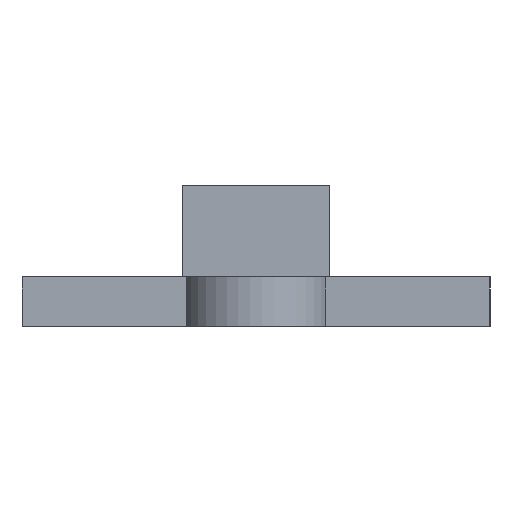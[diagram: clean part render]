
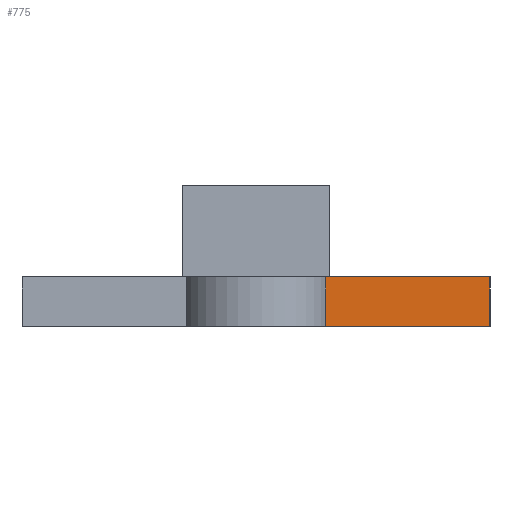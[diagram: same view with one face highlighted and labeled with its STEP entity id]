
A CAD part, left-side view. The second image highlights one B-rep face of the part: STEP entity #775.
In plain terms, the highlighted planar face has unit normal (-1, 0, 0).
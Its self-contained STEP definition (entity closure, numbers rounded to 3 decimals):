
#44 = PLANE('',#45);
#45 = AXIS2_PLACEMENT_3D('',#46,#47,#48);
#46 = CARTESIAN_POINT('',(2.,0.,
    0.));
#47 = DIRECTION('',(0.,0.,1.));
#48 = DIRECTION('',(1.,0.,-0.));
#178 = EDGE_CURVE('',#179,#181,#183,.T.);
#179 = VERTEX_POINT('',#180);
#180 = CARTESIAN_POINT('',(2.,0.,
    0.));
#181 = VERTEX_POINT('',#182);
#182 = CARTESIAN_POINT('',(2.,6.672,0.)
  );
#183 = SURFACE_CURVE('',#184,(#188,#195),.PCURVE_S1.);
#184 = LINE('',#185,#186);
#185 = CARTESIAN_POINT('',(2.,0.,
    0.));
#186 = VECTOR('',#187,1.);
#187 = DIRECTION('',(-0.,1.,0.));
#188 = PCURVE('',#44,#189);
#189 = DEFINITIONAL_REPRESENTATION('',(#190),#194);
#190 = LINE('',#191,#192);
#191 = CARTESIAN_POINT('',(0.,0.));
#192 = VECTOR('',#193,1.);
#193 = DIRECTION('',(0.,1.));
#194 = ( GEOMETRIC_REPRESENTATION_CONTEXT(2) 
PARAMETRIC_REPRESENTATION_CONTEXT() REPRESENTATION_CONTEXT('2D SPACE',''
  ) );
#195 = PCURVE('',#196,#201);
#196 = PLANE('',#197);
#197 = AXIS2_PLACEMENT_3D('',#198,#199,#200);
#198 = CARTESIAN_POINT('',(2.,0.,
    0.));
#199 = DIRECTION('',(1.,0.,-0.));
#200 = DIRECTION('',(0.,0.,1.));
#201 = DEFINITIONAL_REPRESENTATION('',(#202),#206);
#202 = LINE('',#203,#204);
#203 = CARTESIAN_POINT('',(0.,0.));
#204 = VECTOR('',#205,1.);
#205 = DIRECTION('',(0.,-1.));
#206 = ( GEOMETRIC_REPRESENTATION_CONTEXT(2) 
PARAMETRIC_REPRESENTATION_CONTEXT() REPRESENTATION_CONTEXT('2D SPACE',''
  ) );
#224 = PLANE('',#225);
#225 = AXIS2_PLACEMENT_3D('',#226,#227,#228);
#226 = CARTESIAN_POINT('',(2.,0.,
    0.));
#227 = DIRECTION('',(-0.,1.,0.));
#228 = DIRECTION('',(0.,0.,1.));
#775 = ADVANCED_FACE('',(#776),#196,.F.);
#776 = FACE_BOUND('',#777,.F.);
#777 = EDGE_LOOP('',(#778,#808,#829,#830));
#778 = ORIENTED_EDGE('',*,*,#779,.F.);
#779 = EDGE_CURVE('',#780,#782,#784,.T.);
#780 = VERTEX_POINT('',#781);
#781 = CARTESIAN_POINT('',(2.,0.,2.));
#782 = VERTEX_POINT('',#783);
#783 = CARTESIAN_POINT('',(2.,6.672,2.));
#784 = SURFACE_CURVE('',#785,(#789,#796),.PCURVE_S1.);
#785 = LINE('',#786,#787);
#786 = CARTESIAN_POINT('',(2.,0.,2.));
#787 = VECTOR('',#788,1.);
#788 = DIRECTION('',(-0.,1.,0.));
#789 = PCURVE('',#196,#790);
#790 = DEFINITIONAL_REPRESENTATION('',(#791),#795);
#791 = LINE('',#792,#793);
#792 = CARTESIAN_POINT('',(2.,0.));
#793 = VECTOR('',#794,1.);
#794 = DIRECTION('',(0.,-1.));
#795 = ( GEOMETRIC_REPRESENTATION_CONTEXT(2) 
PARAMETRIC_REPRESENTATION_CONTEXT() REPRESENTATION_CONTEXT('2D SPACE',''
  ) );
#796 = PCURVE('',#797,#802);
#797 = PLANE('',#798);
#798 = AXIS2_PLACEMENT_3D('',#799,#800,#801);
#799 = CARTESIAN_POINT('',(2.,0.,2.));
#800 = DIRECTION('',(0.,0.,1.));
#801 = DIRECTION('',(1.,0.,-0.));
#802 = DEFINITIONAL_REPRESENTATION('',(#803),#807);
#803 = LINE('',#804,#805);
#804 = CARTESIAN_POINT('',(0.,0.));
#805 = VECTOR('',#806,1.);
#806 = DIRECTION('',(0.,1.));
#807 = ( GEOMETRIC_REPRESENTATION_CONTEXT(2) 
PARAMETRIC_REPRESENTATION_CONTEXT() REPRESENTATION_CONTEXT('2D SPACE',''
  ) );
#808 = ORIENTED_EDGE('',*,*,#809,.F.);
#809 = EDGE_CURVE('',#179,#780,#810,.T.);
#810 = SURFACE_CURVE('',#811,(#815,#822),.PCURVE_S1.);
#811 = LINE('',#812,#813);
#812 = CARTESIAN_POINT('',(2.,0.,
    0.));
#813 = VECTOR('',#814,1.);
#814 = DIRECTION('',(0.,0.,1.));
#815 = PCURVE('',#196,#816);
#816 = DEFINITIONAL_REPRESENTATION('',(#817),#821);
#817 = LINE('',#818,#819);
#818 = CARTESIAN_POINT('',(0.,0.));
#819 = VECTOR('',#820,1.);
#820 = DIRECTION('',(1.,0.));
#821 = ( GEOMETRIC_REPRESENTATION_CONTEXT(2) 
PARAMETRIC_REPRESENTATION_CONTEXT() REPRESENTATION_CONTEXT('2D SPACE',''
  ) );
#822 = PCURVE('',#224,#823);
#823 = DEFINITIONAL_REPRESENTATION('',(#824),#828);
#824 = LINE('',#825,#826);
#825 = CARTESIAN_POINT('',(0.,0.));
#826 = VECTOR('',#827,1.);
#827 = DIRECTION('',(1.,0.));
#828 = ( GEOMETRIC_REPRESENTATION_CONTEXT(2) 
PARAMETRIC_REPRESENTATION_CONTEXT() REPRESENTATION_CONTEXT('2D SPACE',''
  ) );
#829 = ORIENTED_EDGE('',*,*,#178,.T.);
#830 = ORIENTED_EDGE('',*,*,#831,.T.);
#831 = EDGE_CURVE('',#181,#782,#832,.T.);
#832 = SURFACE_CURVE('',#833,(#837,#844),.PCURVE_S1.);
#833 = LINE('',#834,#835);
#834 = CARTESIAN_POINT('',(2.,6.672,0.)
  );
#835 = VECTOR('',#836,1.);
#836 = DIRECTION('',(0.,0.,1.));
#837 = PCURVE('',#196,#838);
#838 = DEFINITIONAL_REPRESENTATION('',(#839),#843);
#839 = LINE('',#840,#841);
#840 = CARTESIAN_POINT('',(0.,-6.672));
#841 = VECTOR('',#842,1.);
#842 = DIRECTION('',(1.,0.));
#843 = ( GEOMETRIC_REPRESENTATION_CONTEXT(2) 
PARAMETRIC_REPRESENTATION_CONTEXT() REPRESENTATION_CONTEXT('2D SPACE',''
  ) );
#844 = PCURVE('',#845,#850);
#845 = CYLINDRICAL_SURFACE('',#846,3.);
#846 = AXIS2_PLACEMENT_3D('',#847,#848,#849);
#847 = CARTESIAN_POINT('',(3.,9.5,0.));
#848 = DIRECTION('',(0.,0.,1.));
#849 = DIRECTION('',(1.,0.,-0.));
#850 = DEFINITIONAL_REPRESENTATION('',(#851),#855);
#851 = LINE('',#852,#853);
#852 = CARTESIAN_POINT('',(4.373,0.));
#853 = VECTOR('',#854,1.);
#854 = DIRECTION('',(0.,1.));
#855 = ( GEOMETRIC_REPRESENTATION_CONTEXT(2) 
PARAMETRIC_REPRESENTATION_CONTEXT() REPRESENTATION_CONTEXT('2D SPACE',''
  ) );
